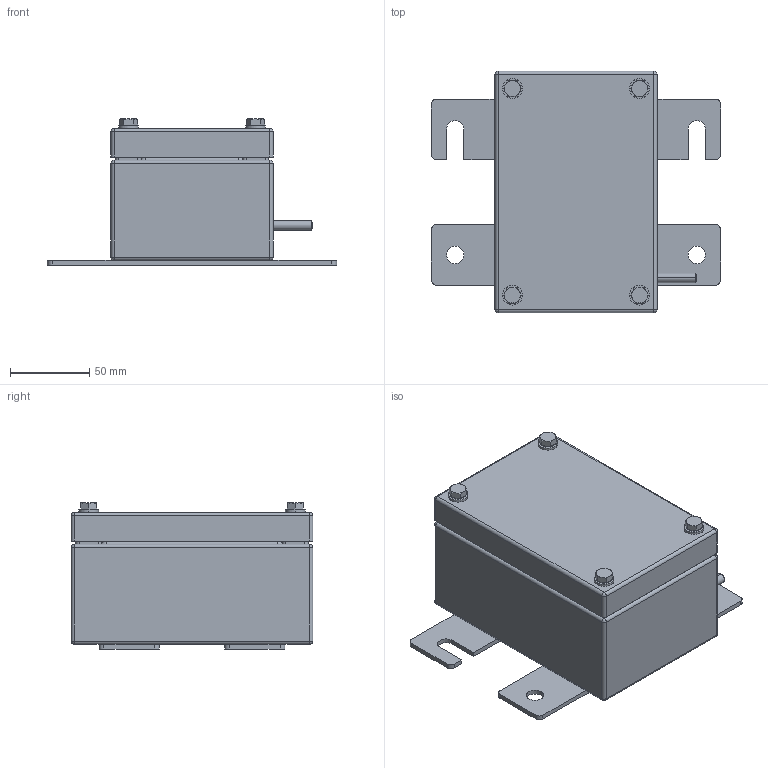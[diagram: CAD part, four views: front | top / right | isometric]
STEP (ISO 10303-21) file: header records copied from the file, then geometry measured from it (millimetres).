
FILE_DESCRIPTION (( 'STEP AP203' ), '1' );
FILE_NAME ('SX64.STEP', '2021-05-20T15:07:15', ( '' ), ( '' ), 'SwSTEP 2.0', 'SolidWorks 2020', '' );
FILE_SCHEMA (( 'CONFIG_CONTROL_DESIGN' ));
Length unit declared in the file: millimetre
Products named in the file (5): SX64 body; plain washer form a_bsi_Bright washer BS 4320 - M6 (Form A); hex screw gradec_bsi_BS EN 24018 - M6 x 20-WN; SX64; SX64 Lid
Assembly tree (10 placements, depth 2):
  SX64
    SX64 body
    SX64 Lid
    plain washer form a_bsi_Bright washer BS 4320 - M6 (Form A)  x4
    hex screw gradec_bsi_BS EN 24018 - M6 x 20-WN  x4
Bounding box: 182 x 152 x 91.97 mm (x, y, z)
Volume: 219850.6 mm3; surface area: 188233.8 mm2
Topology: 10 solids, 10 shells, 371 faces, 835 edges, 478 vertices
Faces by surface type: plane 156, cylinder 145, cone 36, sphere 28, torus 6
Entity records: 8202 total; most frequent: DIRECTION 1415, CARTESIAN_POINT 1319, ORIENTED_EDGE 1200, EDGE_CURVE 600, AXIS2_PLACEMENT_3D 546, VERTEX_POINT 358, VECTOR 323, LINE 323
